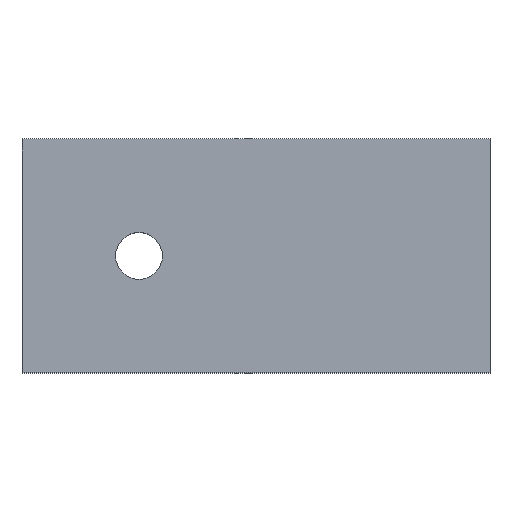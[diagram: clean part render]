
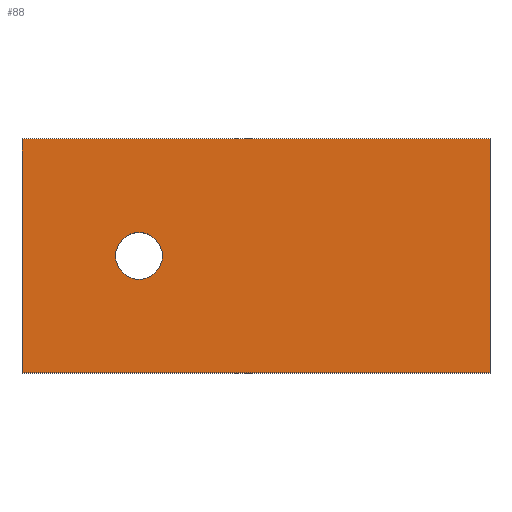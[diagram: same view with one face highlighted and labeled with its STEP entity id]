
A CAD part, top view. The second image highlights one B-rep face of the part: STEP entity #88.
In plain terms, the highlighted planar face has unit normal (0, 0, 1).
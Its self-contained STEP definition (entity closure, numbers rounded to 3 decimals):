
#24 = VERTEX_POINT('',#25);
#25 = CARTESIAN_POINT('',(0.,0.,5.));
#40 = VERTEX_POINT('',#41);
#41 = CARTESIAN_POINT('',(0.,20.,5.));
#47 = EDGE_CURVE('',#24,#40,#48,.T.);
#48 = LINE('',#49,#50);
#49 = CARTESIAN_POINT('',(0.,0.,5.));
#50 = VECTOR('',#51,1.);
#51 = DIRECTION('',(0.,1.,0.));
#70 = EDGE_CURVE('',#24,#71,#73,.T.);
#71 = VERTEX_POINT('',#72);
#72 = CARTESIAN_POINT('',(40.,0.,5.));
#73 = LINE('',#74,#75);
#74 = CARTESIAN_POINT('',(0.,0.,5.));
#75 = VECTOR('',#76,1.);
#76 = DIRECTION('',(1.,0.,0.));
#88 = ADVANCED_FACE('',(#89,#107),#118,.T.);
#89 = FACE_BOUND('',#90,.T.);
#90 = EDGE_LOOP('',(#91,#92,#93,#101));
#91 = ORIENTED_EDGE('',*,*,#47,.F.);
#92 = ORIENTED_EDGE('',*,*,#70,.T.);
#93 = ORIENTED_EDGE('',*,*,#94,.T.);
#94 = EDGE_CURVE('',#71,#95,#97,.T.);
#95 = VERTEX_POINT('',#96);
#96 = CARTESIAN_POINT('',(40.,20.,5.));
#97 = LINE('',#98,#99);
#98 = CARTESIAN_POINT('',(40.,0.,5.));
#99 = VECTOR('',#100,1.);
#100 = DIRECTION('',(0.,1.,0.));
#101 = ORIENTED_EDGE('',*,*,#102,.F.);
#102 = EDGE_CURVE('',#40,#95,#103,.T.);
#103 = LINE('',#104,#105);
#104 = CARTESIAN_POINT('',(0.,20.,5.));
#105 = VECTOR('',#106,1.);
#106 = DIRECTION('',(1.,0.,0.));
#107 = FACE_BOUND('',#108,.T.);
#108 = EDGE_LOOP('',(#109));
#109 = ORIENTED_EDGE('',*,*,#110,.F.);
#110 = EDGE_CURVE('',#111,#111,#113,.T.);
#111 = VERTEX_POINT('',#112);
#112 = CARTESIAN_POINT('',(12.,10.,5.));
#113 = CIRCLE('',#114,2.);
#114 = AXIS2_PLACEMENT_3D('',#115,#116,#117);
#115 = CARTESIAN_POINT('',(10.,10.,5.));
#116 = DIRECTION('',(0.,0.,1.));
#117 = DIRECTION('',(1.,0.,0.));
#118 = PLANE('',#119);
#119 = AXIS2_PLACEMENT_3D('',#120,#121,#122);
#120 = CARTESIAN_POINT('',(0.,0.,5.));
#121 = DIRECTION('',(0.,0.,1.));
#122 = DIRECTION('',(1.,0.,0.));
